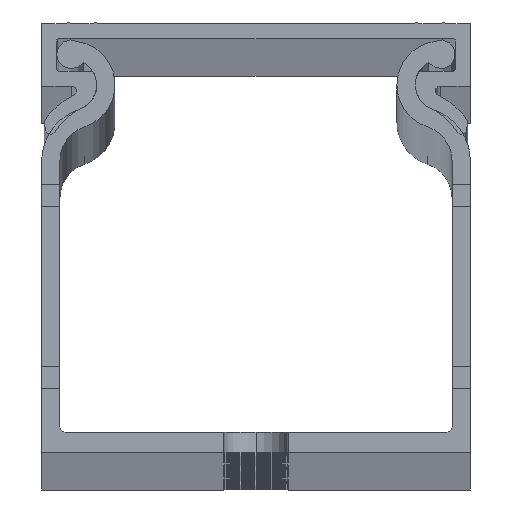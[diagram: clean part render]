
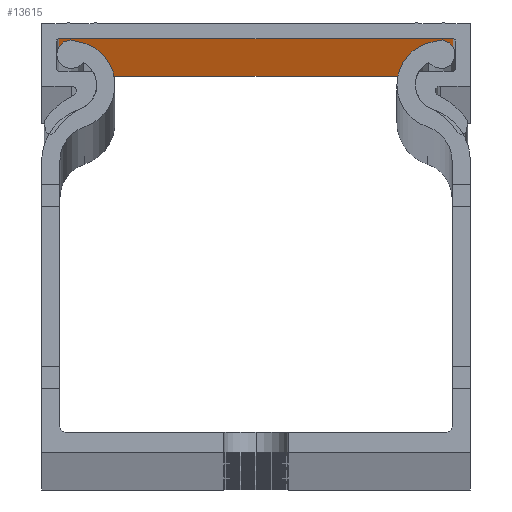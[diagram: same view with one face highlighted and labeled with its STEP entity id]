
A CAD part, top view. The second image highlights one B-rep face of the part: STEP entity #13615.
In plain terms, the highlighted planar face has unit normal (0, -1, 0).
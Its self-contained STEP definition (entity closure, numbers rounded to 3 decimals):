
#849 = VECTOR ( 'NONE', #23518, 1000. ) ;
#2031 = PLANE ( 'NONE',  #44622 ) ;
#5618 = DIRECTION ( 'NONE',  ( 1., 0., 0. ) ) ;
#6040 = EDGE_CURVE ( 'NONE', #30590, #9907, #59353, .T. ) ;
#8931 = VECTOR ( 'NONE', #5618, 1000. ) ;
#9907 = VERTEX_POINT ( 'NONE', #27905 ) ;
#10574 = VERTEX_POINT ( 'NONE', #33388 ) ;
#10841 = CARTESIAN_POINT ( 'NONE',  ( 2568.407, 1295.656, 2000. ) ) ;
#10963 = EDGE_CURVE ( 'NONE', #61733, #30590, #38515, .T. ) ;
#11647 = DIRECTION ( 'NONE',  ( 0., 0., 1. ) ) ;
#13615 = ADVANCED_FACE ( 'NONE', ( #48568 ), #2031, .F. ) ;
#23021 = DIRECTION ( 'NONE',  ( 0., 0., -1. ) ) ;
#23518 = DIRECTION ( 'NONE',  ( 1., 0., 0. ) ) ;
#24713 = EDGE_CURVE ( 'NONE', #10574, #9907, #40581, .T. ) ;
#27047 = EDGE_CURVE ( 'NONE', #61733, #10574, #38635, .T. ) ;
#27597 = CARTESIAN_POINT ( 'NONE',  ( 2586.807, 1295.656, 2000. ) ) ;
#27905 = CARTESIAN_POINT ( 'NONE',  ( 2586.807, 1295.656, 0. ) ) ;
#27965 = CARTESIAN_POINT ( 'NONE',  ( 2550.007, 1295.656, 2000. ) ) ;
#30590 = VERTEX_POINT ( 'NONE', #54608 ) ;
#33091 = ORIENTED_EDGE ( 'NONE', *, *, #27047, .T. ) ;
#33388 = CARTESIAN_POINT ( 'NONE',  ( 2550.007, 1295.656, 0. ) ) ;
#34159 = EDGE_LOOP ( 'NONE', ( #61089, #34366, #49268, #33091 ) ) ;
#34366 = ORIENTED_EDGE ( 'NONE', *, *, #6040, .F. ) ;
#38367 = VECTOR ( 'NONE', #23021, 1000. ) ;
#38515 = LINE ( 'NONE', #10841, #8931 ) ;
#38635 = LINE ( 'NONE', #56343, #49524 ) ;
#40581 = LINE ( 'NONE', #53265, #849 ) ;
#44622 = AXIS2_PLACEMENT_3D ( 'NONE', #56214, #61208, #11647 ) ;
#48568 = FACE_OUTER_BOUND ( 'NONE', #34159, .T. ) ;
#49268 = ORIENTED_EDGE ( 'NONE', *, *, #10963, .F. ) ;
#49524 = VECTOR ( 'NONE', #51142, 1000. ) ;
#51142 = DIRECTION ( 'NONE',  ( 0., 0., -1. ) ) ;
#53265 = CARTESIAN_POINT ( 'NONE',  ( 2568.407, 1295.656, 0. ) ) ;
#54608 = CARTESIAN_POINT ( 'NONE',  ( 2586.807, 1295.656, 2000. ) ) ;
#56214 = CARTESIAN_POINT ( 'NONE',  ( 2568.407, 1295.656, 2000. ) ) ;
#56343 = CARTESIAN_POINT ( 'NONE',  ( 2550.007, 1295.656, 2000. ) ) ;
#59353 = LINE ( 'NONE', #27597, #38367 ) ;
#61089 = ORIENTED_EDGE ( 'NONE', *, *, #24713, .T. ) ;
#61208 = DIRECTION ( 'NONE',  ( 0., 1., 0. ) ) ;
#61733 = VERTEX_POINT ( 'NONE', #27965 ) ;
